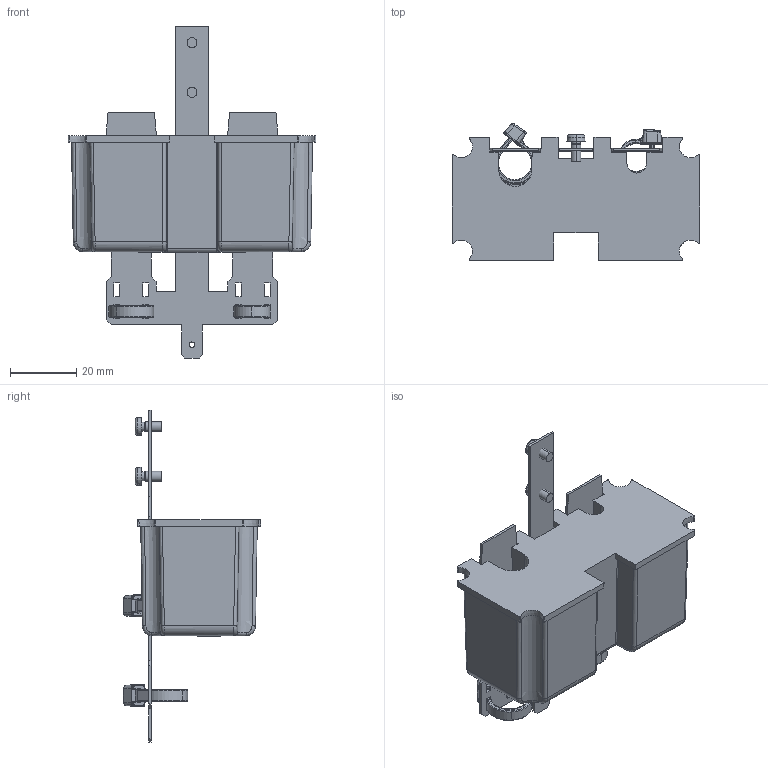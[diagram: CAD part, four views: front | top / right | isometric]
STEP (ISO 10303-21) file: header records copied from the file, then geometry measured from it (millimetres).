
FILE_DESCRIPTION (( 'STEP AP214' ), '1' );
FILE_NAME ('_741000030__LIMAX1CP Connector Kit_3D-Daten.step', '2025-05-06T12:11:18', ( '' ), ( '' ), 'SwSTEP 2.0', 'SolidWorks 2024', '' );
FILE_SCHEMA (( 'AUTOMOTIVE_DESIGN' ));
Length unit declared in the file: millimetre
Products named in the file (7): Kabelbinder 142mm x 3.6mm_montiert D11; Kabelbinder 142mm x 3.6mm_montiert D8.42; Kabelbinder 142mm x 3.6mm_montiert D10; Z-104038_Standard_defeature; _741000030__LIMAX1CP Connector Kit_3D-Daten; ZSchr H SN213307-4.8 znb,M3x6; Z-105369_Abwicklung Standard
Assembly tree (8 placements, depth 2):
  _741000030__LIMAX1CP Connector Kit_3D-Daten
    Z-104038_Standard_defeature
    Kabelbinder 142mm x 3.6mm_montiert D8.42  x2
    Kabelbinder 142mm x 3.6mm_montiert D11
    Z-105369_Abwicklung Standard
    ZSchr H SN213307-4.8 znb,M3x6  x2
    Kabelbinder 142mm x 3.6mm_montiert D10
Bounding box: 74.67 x 41.37 x 100 mm (x, y, z)
Volume: 72209.2 mm3; surface area: 21850.8 mm2
Topology: 8 solids, 8 shells, 881 faces, 2222 edges, 1360 vertices
Faces by surface type: plane 422, cylinder 186, bspline 167, cone 58, torus 48
Entity records: 25358 total; most frequent: CARTESIAN_POINT 8880, ORIENTED_EDGE 3672, DIRECTION 2976, EDGE_CURVE 1836, VERTEX_POINT 1132, VECTOR 1098, LINE 1098, AXIS2_PLACEMENT_3D 939
